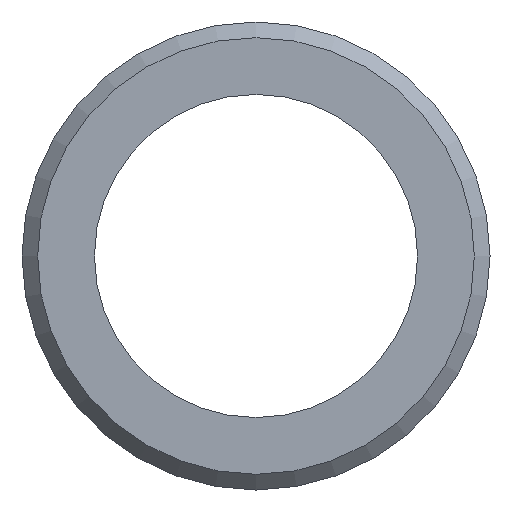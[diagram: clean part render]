
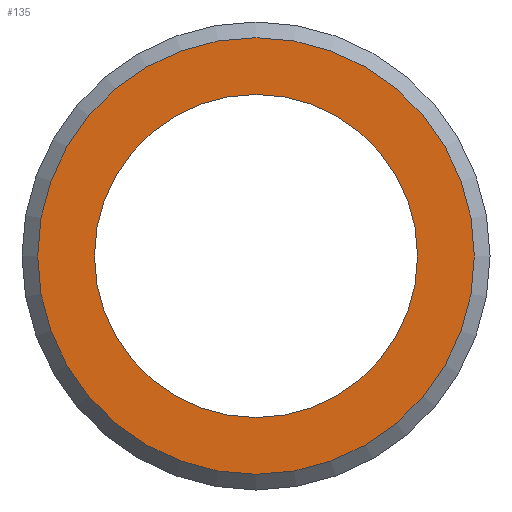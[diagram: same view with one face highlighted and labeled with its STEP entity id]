
A CAD part, left-side view. The second image highlights one B-rep face of the part: STEP entity #135.
In plain terms, the highlighted planar face has unit normal (-1, 0, 0).
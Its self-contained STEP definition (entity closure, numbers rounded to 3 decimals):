
#73=CARTESIAN_POINT('',(0.,22.301,0.));
#74=VERTEX_POINT('',#73);
#75=CARTESIAN_POINT('',(0.,0.0,0.0));
#76=DIRECTION('',(1.0,0.0,0.0));
#77=DIRECTION('',(0.0,-1.0,0.0));
#78=AXIS2_PLACEMENT_3D('',#75,#76,#77);
#79=CIRCLE('',#78,22.301);
#80=EDGE_CURVE('',#74,#74,#79,.T.);
#116=CARTESIAN_POINT('',(0.,20.201,0.0));
#117=DIRECTION('',(-1.0,0.0,0.0));
#118=DIRECTION('',(0.0,0.0,1.0));
#119=AXIS2_PLACEMENT_3D('',#116,#117,#118);
#120=PLANE('',#119);
#121=ORIENTED_EDGE('',*,*,#80,.F.);
#122=EDGE_LOOP('',(#121));
#123=FACE_OUTER_BOUND('',#122,.T.);
#124=CARTESIAN_POINT('',(0.,16.5,0.0));
#125=VERTEX_POINT('',#124);
#126=CARTESIAN_POINT('',(0.,0.0,0.0));
#127=DIRECTION('',(1.0,0.0,0.0));
#128=DIRECTION('',(0.0,1.0,0.0));
#129=AXIS2_PLACEMENT_3D('',#126,#127,#128);
#130=CIRCLE('',#129,16.5);
#131=EDGE_CURVE('',#125,#125,#130,.T.);
#132=ORIENTED_EDGE('',*,*,#131,.T.);
#133=EDGE_LOOP('',(#132));
#134=FACE_BOUND('',#133,.T.);
#135=ADVANCED_FACE('',(#123,#134),#120,.T.);
